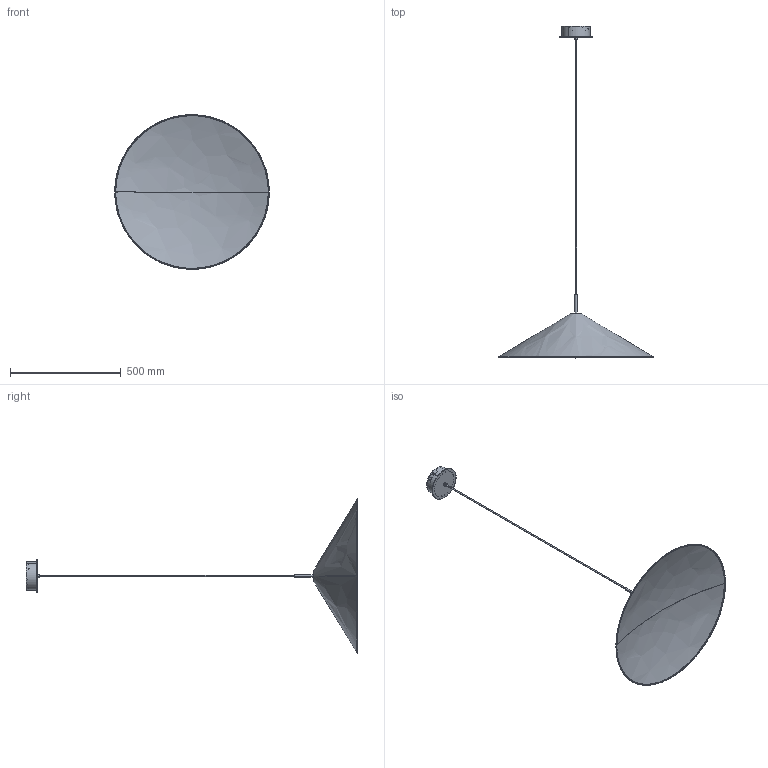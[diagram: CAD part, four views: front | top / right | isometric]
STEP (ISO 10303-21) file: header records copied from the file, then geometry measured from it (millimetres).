
FILE_DESCRIPTION(/* description */ (''),/* implementation_level */ '2;1');
FILE_NAME(/* name */ 'Brolly Pendant Ø700',/* time_stamp */ '2024-07-09T16:45:49+02:00',/* author */ (''),/* organization */ (''),/* preprocessor_version */ 'ST-DEVELOPER v16.5',/* originating_system */ 'Rhino 7.37',/* authorisation */ '');
FILE_SCHEMA (('CONFIG_CONTROL_DESIGN'));
Length unit declared in the file: millimetre
Products named in the file (3): Document; KANTARELL-3-1; CEILING-PLATE-1
Assembly tree (2 placements, depth 2):
  Document
    KANTARELL-3-1
    CEILING-PLATE-1
Bounding box: 697.7 x 1498 x 697.38 mm (x, y, z)
Volume: 1450300.1 mm3; surface area: 1827968.1 mm2
Topology: 9 solids, 13 shells, 242 faces, 613 edges, 374 vertices
Faces by surface type: bspline 92, cylinder 88, plane 62
Full cylindrical faces by diameter (mm): 151 x1
Entity records: 11698 total; most frequent: CARTESIAN_POINT 7597, ORIENTED_EDGE 1174, EDGE_CURVE 595, VERTEX_POINT 374, B_SPLINE_CURVE_WITH_KNOTS 369, EDGE_LOOP 289, ADVANCED_FACE 242, FACE_OUTER_BOUND 242
